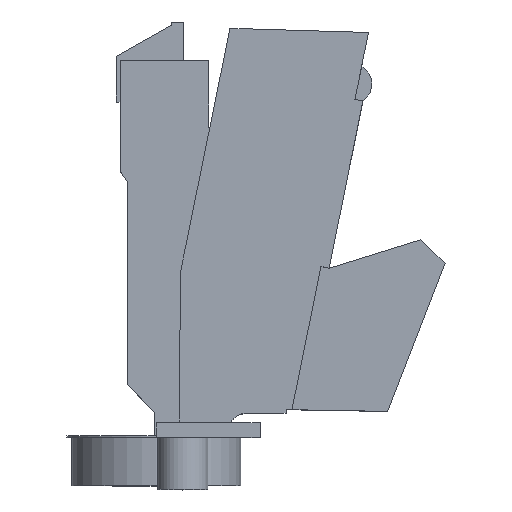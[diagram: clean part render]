
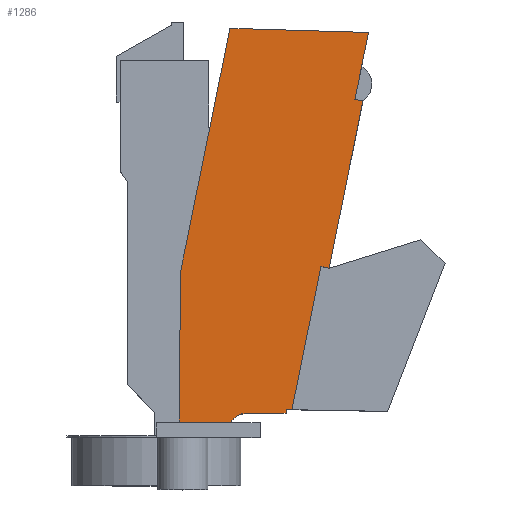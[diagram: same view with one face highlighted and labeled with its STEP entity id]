
A CAD part, top view. The second image highlights one B-rep face of the part: STEP entity #1286.
In plain terms, the highlighted planar face has unit normal (0, 0, 1).
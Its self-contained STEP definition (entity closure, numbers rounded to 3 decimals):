
#46 = VERTEX_POINT ( 'NONE', #162 ) ;
#47 = VERTEX_POINT ( 'NONE', #163 ) ;
#55 = VERTEX_POINT ( 'NONE', #171 ) ;
#56 = VERTEX_POINT ( 'NONE', #172 ) ;
#68 = VERTEX_POINT ( 'NONE', #184 ) ;
#69 = VERTEX_POINT ( 'NONE', #185 ) ;
#78 = VERTEX_POINT ( 'NONE', #194 ) ;
#79 = VERTEX_POINT ( 'NONE', #195 ) ;
#84 = VERTEX_POINT ( 'NONE', #200 ) ;
#85 = VERTEX_POINT ( 'NONE', #201 ) ;
#86 = VERTEX_POINT ( 'NONE', #202 ) ;
#87 = VERTEX_POINT ( 'NONE', #203 ) ;
#88 = VERTEX_POINT ( 'NONE', #204 ) ;
#162 = CARTESIAN_POINT ( 'NONE',  ( 27.451, 3., 12.1 ) ) ;
#163 = CARTESIAN_POINT ( 'NONE',  ( 16.742, 3., 12.1 ) ) ;
#171 = CARTESIAN_POINT ( 'NONE',  ( 55.963, 83.91, 12.1 ) ) ;
#172 = CARTESIAN_POINT ( 'NONE',  ( 53.157, 70.082, 12.1 ) ) ;
#184 = CARTESIAN_POINT ( 'NONE',  ( 40.107, 5.764, 12.1 ) ) ;
#185 = CARTESIAN_POINT ( 'NONE',  ( 38.88, 5.785, 12.1 ) ) ;
#194 = CARTESIAN_POINT ( 'NONE',  ( 54.823, 69.744, 12.1 ) ) ;
#195 = CARTESIAN_POINT ( 'NONE',  ( 47.789, 35.073, 12.1 ) ) ;
#200 = CARTESIAN_POINT ( 'NONE',  ( 17.02, 34.28, 12.1 ) ) ;
#201 = CARTESIAN_POINT ( 'NONE',  ( 30.215, 4.92, 12.1 ) ) ;
#202 = CARTESIAN_POINT ( 'NONE',  ( 38.88, 5.02, 12.1 ) ) ;
#203 = CARTESIAN_POINT ( 'NONE',  ( 46.123, 35.411, 12.1 ) ) ;
#204 = CARTESIAN_POINT ( 'NONE',  ( 27.265, 84.772, 12.1 ) ) ;
#350 = CARTESIAN_POINT ( 'NONE',  ( 12., 3., 12.1 ) ) ;
#351 = DIRECTION ( 'NONE',  ( 1., 0., 0. ) ) ;
#393 = CARTESIAN_POINT ( 'NONE',  ( 54.553, 76.962, 12.1 ) ) ;
#396 = DIRECTION ( 'NONE',  ( 0.199, 0.98, 0. ) ) ;
#419 = CARTESIAN_POINT ( 'NONE',  ( 38.88, 5.785, 12.1 ) ) ;
#428 = DIRECTION ( 'NONE',  ( 1., -0.017, 0. ) ) ;
#456 = CARTESIAN_POINT ( 'NONE',  ( 47.789, 35.073, 12.1 ) ) ;
#457 = DIRECTION ( 'NONE',  ( -0.199, -0.98, 0. ) ) ;
#476 = CARTESIAN_POINT ( 'NONE',  ( 30.249, 1.92, 12.1 ) ) ;
#477 = DIRECTION ( 'NONE',  ( 0., 0., -1. ) ) ;
#478 = DIRECTION ( 'NONE',  ( 1., 0., 0. ) ) ;
#485 = CARTESIAN_POINT ( 'NONE',  ( 30.215, 4.92, 12.1 ) ) ;
#487 = CARTESIAN_POINT ( 'NONE',  ( 27.265, 84.772, 12.1 ) ) ;
#488 = DIRECTION ( 'NONE',  ( 1., 0.012, 0. ) ) ;
#489 = CARTESIAN_POINT ( 'NONE',  ( 54.553, 76.962, 12.1 ) ) ;
#490 = DIRECTION ( 'NONE',  ( 0.199, 0.98, 0. ) ) ;
#491 = CARTESIAN_POINT ( 'NONE',  ( 38.88, 5.02, 12.1 ) ) ;
#492 = DIRECTION ( 'NONE',  ( 0., 1., 0. ) ) ;
#493 = CARTESIAN_POINT ( 'NONE',  ( 16.715, 0., 12.1 ) ) ;
#494 = DIRECTION ( 'NONE',  ( -0.009, -1., 0. ) ) ;
#495 = CARTESIAN_POINT ( 'NONE',  ( 55.963, 83.91, 12.1 ) ) ;
#496 = DIRECTION ( 'NONE',  ( -1., 0.03, 0. ) ) ;
#497 = CARTESIAN_POINT ( 'NONE',  ( 18.143, 77.186, 12.1 ) ) ;
#498 = DIRECTION ( 'NONE',  ( 0.98, -0.199, 0. ) ) ;
#499 = CARTESIAN_POINT ( 'NONE',  ( 11.108, 42.516, 12.1 ) ) ;
#500 = DIRECTION ( 'NONE',  ( 0.98, -0.199, 0. ) ) ;
#506 = DIRECTION ( 'NONE',  ( -0.199, -0.98, 0. ) ) ;
#854 = PLANE ( 'NONE',  #1208 ) ;
#857 = CARTESIAN_POINT ( 'NONE',  ( 52.387, 73.266, 12.1 ) ) ;
#863 = DIRECTION ( 'NONE',  ( 0., 0., 1. ) ) ;
#864 = DIRECTION ( 'NONE',  ( 1., 0., 0. ) ) ;
#988 = EDGE_CURVE ( 'NONE', #47, #46, #1398, .T. ) ;
#1007 = EDGE_CURVE ( 'NONE', #56, #55, #1419, .T. ) ;
#1023 = EDGE_CURVE ( 'NONE', #69, #68, #1444, .T. ) ;
#1038 = EDGE_CURVE ( 'NONE', #78, #79, #1490, .T. ) ;
#1047 = EDGE_CURVE ( 'NONE', #46, #85, #1508, .T. ) ;
#1051 = EDGE_CURVE ( 'NONE', #85, #86, #1510, .T. ) ;
#1052 = EDGE_CURVE ( 'NONE', #68, #87, #1515, .T. ) ;
#1053 = EDGE_CURVE ( 'NONE', #86, #69, #1517, .T. ) ;
#1054 = EDGE_CURVE ( 'NONE', #84, #47, #1519, .T. ) ;
#1055 = EDGE_CURVE ( 'NONE', #55, #88, #1521, .T. ) ;
#1056 = EDGE_CURVE ( 'NONE', #56, #78, #1523, .T. ) ;
#1057 = EDGE_CURVE ( 'NONE', #87, #79, #1525, .T. ) ;
#1060 = EDGE_CURVE ( 'NONE', #88, #84, #1509, .T. ) ;
#1144 = AXIS2_PLACEMENT_3D ( 'NONE', #476, #477, #478 ) ;
#1208 = AXIS2_PLACEMENT_3D ( 'NONE', #857, #863, #864 ) ;
#1286 = ADVANCED_FACE ( 'NONE', ( #1732 ), #854, .T. ) ;
#1398 = LINE ( 'NONE', #350, #1399 ) ;
#1399 = VECTOR ( 'NONE', #351, 1000. ) ;
#1419 = LINE ( 'NONE', #393, #1429 ) ;
#1429 = VECTOR ( 'NONE', #396, 1000. ) ;
#1444 = LINE ( 'NONE', #419, #1461 ) ;
#1461 = VECTOR ( 'NONE', #428, 1000. ) ;
#1490 = LINE ( 'NONE', #456, #1491 ) ;
#1491 = VECTOR ( 'NONE', #457, 1000. ) ;
#1508 = CIRCLE ( 'NONE', #1144, 3. ) ;
#1509 = LINE ( 'NONE', #487, #1531 ) ;
#1510 = LINE ( 'NONE', #485, #1513 ) ;
#1513 = VECTOR ( 'NONE', #488, 1000. ) ;
#1515 = LINE ( 'NONE', #489, #1516 ) ;
#1516 = VECTOR ( 'NONE', #490, 1000. ) ;
#1517 = LINE ( 'NONE', #491, #1518 ) ;
#1518 = VECTOR ( 'NONE', #492, 1000. ) ;
#1519 = LINE ( 'NONE', #493, #1520 ) ;
#1520 = VECTOR ( 'NONE', #494, 1000. ) ;
#1521 = LINE ( 'NONE', #495, #1522 ) ;
#1522 = VECTOR ( 'NONE', #496, 1000. ) ;
#1523 = LINE ( 'NONE', #497, #1524 ) ;
#1524 = VECTOR ( 'NONE', #498, 1000. ) ;
#1525 = LINE ( 'NONE', #499, #1526 ) ;
#1526 = VECTOR ( 'NONE', #500, 1000. ) ;
#1531 = VECTOR ( 'NONE', #506, 1000. ) ;
#1732 = FACE_OUTER_BOUND ( 'NONE', #1867, .T. ) ;
#1867 = EDGE_LOOP ( 'NONE', ( #2128, #2173, #2172, #2171, #2170, #2169, #2168, #1996, #1997, #1998, #2174, #2149, #2061 ) ) ;
#1996 = ORIENTED_EDGE ( 'NONE', *, *, #1057, .T. ) ;
#1997 = ORIENTED_EDGE ( 'NONE', *, *, #1038, .F. ) ;
#1998 = ORIENTED_EDGE ( 'NONE', *, *, #1056, .F. ) ;
#2061 = ORIENTED_EDGE ( 'NONE', *, *, #1060, .T. ) ;
#2128 = ORIENTED_EDGE ( 'NONE', *, *, #1054, .T. ) ;
#2149 = ORIENTED_EDGE ( 'NONE', *, *, #1055, .T. ) ;
#2168 = ORIENTED_EDGE ( 'NONE', *, *, #1052, .T. ) ;
#2169 = ORIENTED_EDGE ( 'NONE', *, *, #1023, .T. ) ;
#2170 = ORIENTED_EDGE ( 'NONE', *, *, #1053, .T. ) ;
#2171 = ORIENTED_EDGE ( 'NONE', *, *, #1051, .T. ) ;
#2172 = ORIENTED_EDGE ( 'NONE', *, *, #1047, .T. ) ;
#2173 = ORIENTED_EDGE ( 'NONE', *, *, #988, .T. ) ;
#2174 = ORIENTED_EDGE ( 'NONE', *, *, #1007, .T. ) ;
